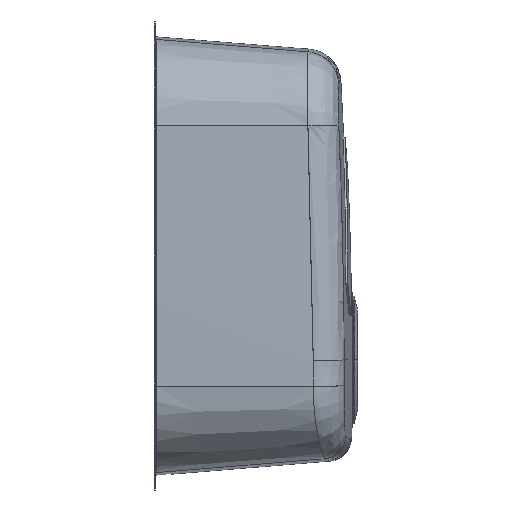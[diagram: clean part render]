
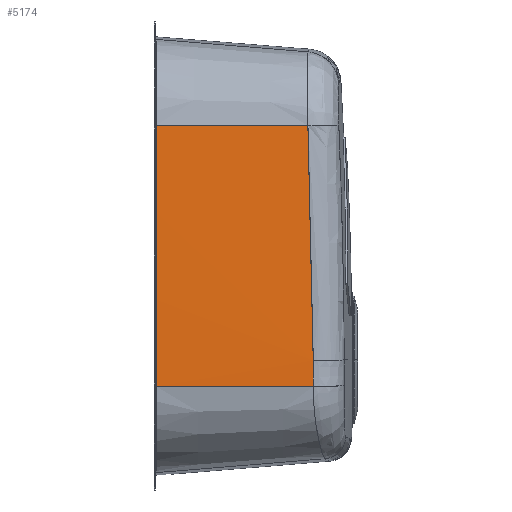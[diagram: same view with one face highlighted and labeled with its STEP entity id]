
A CAD part, left-side view. The second image highlights one B-rep face of the part: STEP entity #5174.
In plain terms, the highlighted conical face has half-angle 4.7 degrees and reference radius 4994.76 mm.
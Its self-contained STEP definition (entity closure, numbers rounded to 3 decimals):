
#324=CARTESIAN_POINT('',(4760.,-1.718,0.));
#325=DIRECTION('',(0.,-1.,0.));
#326=DIRECTION('',(-1.,0.,0.024));
#327=AXIS2_PLACEMENT_3D('',#324,#325,#326);
#329=CARTESIAN_POINT('',(-227.838,-140.402,119.096));
#330=CARTESIAN_POINT('',(-228.21,-141.074,101.199));
#331=CARTESIAN_POINT('',(-228.768,-142.342,65.403));
#332=CARTESIAN_POINT('',(-229.054,-143.91,11.718));
#333=CARTESIAN_POINT('',(-228.802,-144.989,
-41.948));
#334=CARTESIAN_POINT('',(-228.286,-145.272,
-77.709));
#335=CARTESIAN_POINT('',(-227.942,-145.29,
-95.588));
#337=CARTESIAN_POINT('',(-227.942,-145.29,
-95.588));
#338=CARTESIAN_POINT('',(-227.904,-145.291,
-97.546));
#339=CARTESIAN_POINT('',(-227.827,-145.292,
-101.463));
#340=CARTESIAN_POINT('',(-227.725,-145.286,
-106.359));
#341=CARTESIAN_POINT('',(-227.64,-145.277,
-110.275));
#342=CARTESIAN_POINT('',(-227.575,-145.268,
-113.212));
#343=CARTESIAN_POINT('',(-227.508,-145.257,
-116.15));
#344=CARTESIAN_POINT('',(-227.463,-145.247,
-118.108));
#345=CARTESIAN_POINT('',(-227.44,-145.243,
-119.087));
#347=DIRECTION('',(0.082,-0.997,0.002));
#348=VECTOR('',#347,144.009);
#349=CARTESIAN_POINT('',(-239.237,-1.718,
-119.369));
#350=LINE('',#349,#348);
#370=CARTESIAN_POINT('',(-227.838,-140.402,119.096));
#372=DIRECTION('',(0.082,-0.997,-0.002));
#373=VECTOR('',#372,139.152);
#374=CARTESIAN_POINT('',(-239.237,-1.718,119.369));
#375=LINE('',#374,#373);
#4689=VERTEX_POINT('',#370);
#4691=VERTEX_POINT('',#335);
#4693=VERTEX_POINT('',#345);
#4780=CARTESIAN_POINT('',(-239.237,-1.718,
119.369));
#4781=CARTESIAN_POINT('',(-239.237,-1.718,
-119.369));
#4782=VERTEX_POINT('',#4780);
#4783=VERTEX_POINT('',#4781);
#5159=CARTESIAN_POINT('',(4760.,-73.505,0.));
#5160=DIRECTION('',(0.,1.,0.));
#5161=DIRECTION('',(1.,0.,0.024));
#5162=AXIS2_PLACEMENT_3D('',#5159,#5160,#5161);
#5163=CONICAL_SURFACE('',#5162,4994.76,4.7);
#5164=ORIENTED_EDGE('',*,*,#5040,.F.);
#5166=ORIENTED_EDGE('',*,*,#5165,.T.);
#5168=ORIENTED_EDGE('',*,*,#5167,.T.);
#5170=ORIENTED_EDGE('',*,*,#5169,.T.);
#5171=ORIENTED_EDGE('',*,*,#5150,.F.);
#5172=EDGE_LOOP('',(#5164,#5166,#5168,#5170,#5171));
#5173=FACE_OUTER_BOUND('',#5172,.F.);
#5174=ADVANCED_FACE('',(#5173),#5163,.T.);
#328=CIRCLE('',#327,5000.661);
#336=B_SPLINE_CURVE_WITH_KNOTS('',3,(#329,#330,#331,#332,#333,#334,#335),
.UNSPECIFIED.,.F.,.F.,(4,1,1,1,4),(0.,0.25,0.5,0.75,1.),
.UNSPECIFIED.);
#346=B_SPLINE_CURVE_WITH_KNOTS('',3,(#337,#338,#339,#340,#341,#342,#343,#344,
#345),.UNSPECIFIED.,.F.,.F.,(4,1,1,1,1,1,4),(0.,0.25,
0.5,0.625,0.75,0.875,1.),
.UNSPECIFIED.);
#5040=EDGE_CURVE('',#4782,#4783,#328,.T.);
#5150=EDGE_CURVE('',#4783,#4693,#350,.T.);
#5165=EDGE_CURVE('',#4782,#4689,#375,.T.);
#5167=EDGE_CURVE('',#4689,#4691,#336,.T.);
#5169=EDGE_CURVE('',#4691,#4693,#346,.T.);
